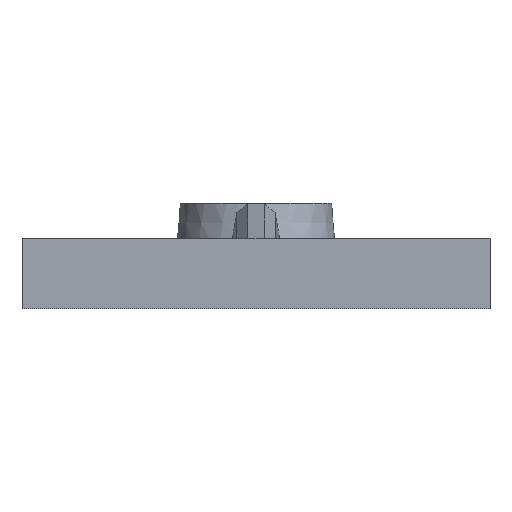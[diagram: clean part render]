
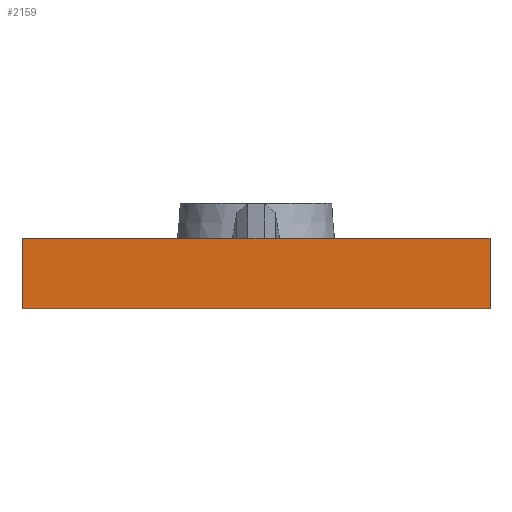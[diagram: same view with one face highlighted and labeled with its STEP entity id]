
A CAD part, front view. The second image highlights one B-rep face of the part: STEP entity #2159.
In plain terms, the highlighted planar face has unit normal (0, -1, 0).
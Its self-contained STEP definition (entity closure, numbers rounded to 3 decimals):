
#180=LINE('',#2966,#337);
#210=LINE('',#3097,#367);
#282=LINE('',#4339,#439);
#287=LINE('',#4353,#444);
#308=LINE('',#4436,#465);
#318=LINE('',#4476,#475);
#337=VECTOR('',#2423,10.);
#367=VECTOR('',#2531,10.);
#439=VECTOR('',#2749,10.);
#444=VECTOR('',#2768,10.);
#465=VECTOR('',#2847,10.);
#475=VECTOR('',#2885,10.);
#635=FACE_OUTER_BOUND('',#769,.T.);
#769=EDGE_LOOP('',(#1977,#1978,#1979,#1980,#1981,#1982));
#875=VERTEX_POINT('',#2963);
#876=VERTEX_POINT('',#2965);
#912=VERTEX_POINT('',#3088);
#914=VERTEX_POINT('',#3095);
#1025=VERTEX_POINT('',#4337);
#1027=VERTEX_POINT('',#4352);
#1076=EDGE_CURVE('',#876,#875,#180,.T.);
#1132=EDGE_CURVE('',#912,#914,#210,.T.);
#1307=EDGE_CURVE('',#1025,#914,#282,.T.);
#1313=EDGE_CURVE('',#912,#1027,#287,.T.);
#1350=EDGE_CURVE('',#876,#1025,#308,.T.);
#1363=EDGE_CURVE('',#875,#1027,#318,.T.);
#1977=ORIENTED_EDGE('',*,*,#1313,.F.);
#1978=ORIENTED_EDGE('',*,*,#1132,.T.);
#1979=ORIENTED_EDGE('',*,*,#1307,.F.);
#1980=ORIENTED_EDGE('',*,*,#1350,.F.);
#1981=ORIENTED_EDGE('',*,*,#1076,.T.);
#1982=ORIENTED_EDGE('',*,*,#1363,.T.);
#2038=PLANE('',#2359);
#2159=ADVANCED_FACE('',(#635),#2038,.T.);
#2359=AXIS2_PLACEMENT_3D('',#4477,#2886,#2887);
#2423=DIRECTION('',(1.,0.,0.));
#2531=DIRECTION('',(-1.,0.,0.));
#2749=DIRECTION('',(1.,0.,0.));
#2768=DIRECTION('',(1.,0.,0.));
#2847=DIRECTION('',(0.,0.,1.));
#2885=DIRECTION('',(0.,0.,1.));
#2886=DIRECTION('center_axis',(0.,-1.,0.));
#2887=DIRECTION('ref_axis',(1.,0.,0.));
#2963=CARTESIAN_POINT('',(0.,-42.533,42.875));
#2965=CARTESIAN_POINT('',(-40.,-42.533,42.875));
#2966=CARTESIAN_POINT('',(-40.,-42.533,42.875));
#3088=CARTESIAN_POINT('',(-19.3,-42.533,48.875));
#3095=CARTESIAN_POINT('',(-20.7,-42.533,48.875));
#3097=CARTESIAN_POINT('',(-29.25,-42.533,48.875));
#4337=CARTESIAN_POINT('',(-40.,-42.533,48.875));
#4339=CARTESIAN_POINT('',(-40.,-42.533,48.875));
#4352=CARTESIAN_POINT('',(0.,-42.533,48.875));
#4353=CARTESIAN_POINT('',(-40.,-42.533,48.875));
#4436=CARTESIAN_POINT('',(-40.,-42.533,42.875));
#4476=CARTESIAN_POINT('',(0.,-42.533,42.875));
#4477=CARTESIAN_POINT('Origin',(-40.,-42.533,42.875));
